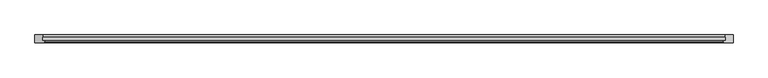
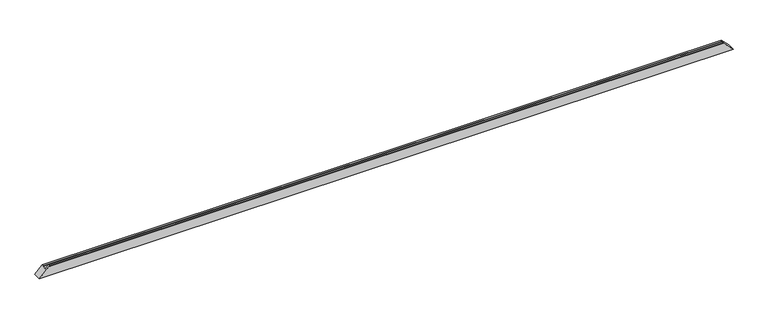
"""IFC4 building model written with IfcOpenShell, lengths in millimetres: proxy geometry, Weiku - Montante - Caixilho 02.2.01.005 : Weiku - Montante - Caixilho 02.2.01.005."""

from ifc_helpers import new_model, si_unit, frame, origin, place, context, project, spatial, ellipse_curve, source, transform, mapped, element, save
from ifc_brep_helpers import plane_surface, cylinder_surface, advanced_brep


def generic_models_e169103e(model_context):
    return source(origin(), model_context, "Body", "AdvancedBrep", [
        advanced_brep(
        [(-2199.0, 12.5, 46.0), (-2178.8909676, 12.5, 66.1090324), (2178.8909676, 12.5, 66.1090324), (2199.0, 12.5, 46.0), (-2199.0, 37.8314286, 46.0), (2199.0, 37.8314286, 46.0), (-2196.0, 37.027581, 49.0), (2196.0, 37.027581, 49.0), (-2196.0, 50.0, 49.0), (2196.0, 50.0, 49.0), (2245.0, 50.0, 0.0), (-2245.0, 50.0, 0.0), (2245.0, 0.0, 0.0), (-2245.0, 0.0, 0.0), (2183.4997332, 0.0, 61.5002668), (-2183.4997332, 0.0, 61.5002668), (-2178.118227, 11.4929448, 66.881773), (-2180.6019557, 2.2235429, 64.3980443), (2180.6019557, 2.2235429, 64.3980443), (2178.118227, 11.4929448, 66.881773)],
        [
            (0, 1),
            (1, 2),
            (2, 3),
            (3, 0),
            (4, 0),
            (3, 5),
            (5, 4),
            (6, 4),
            (5, 7),
            (7, 6),
            (8, 6),
            (7, 9),
            (9, 8),
            (10, 11),
            (11, 8),
            (9, 10),
            (10, 12),
            (12, 13),
            (13, 11),
            (12, 14),
            (14, 15),
            (15, 13),
            (16, 17),
            (17, 18),
            (18, 19),
            (19, 16),
            (15, 17, ellipse_curve(frame((-2183.4997332, 3.0, 61.5002668), z_axis=(-0.7071067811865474, 0.0, 0.7071067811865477), x_axis=(-0.7071067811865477, 0.0, -0.7071067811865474)), 4.2426407, 3.0)),
            (16, 1, ellipse_curve(frame((-2178.8909676, 11.7, 66.1090324), z_axis=(-0.7071067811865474, 0.0, 0.7071067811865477), x_axis=(-0.7071067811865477, 0.0, -0.7071067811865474)), 1.1313708, 0.8)),
            (2, 19, ellipse_curve(frame((2178.8909676, 11.7, 66.1090324), z_axis=(0.7071067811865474, 0.0, 0.7071067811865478), x_axis=(-0.7071067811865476, 0.0, 0.7071067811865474)), 1.1313708, 0.8)),
            (18, 14, ellipse_curve(frame((2183.4997332, 3.0, 61.5002668), z_axis=(0.7071067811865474, 0.0, 0.7071067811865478), x_axis=(-0.7071067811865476, 0.0, 0.7071067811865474)), 4.2426407, 3.0)),
        ],
        [
            plane_surface(frame((-2245.0, 12.5, 66.1090324), z_axis=(0.0, 1.0, 0.0), x_axis=(1.0, 0.0, 0.0))),
            plane_surface(frame((-2245.0, 12.5, 46.0), z_axis=(0.0, 0.0, 1.0), x_axis=(1.0, 0.0, 0.0))),
            plane_surface(frame((-2245.0, 37.8314286, 46.0), z_axis=(0.0, -0.9659258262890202, -0.2588190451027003), x_axis=(1.0, 0.0, 0.0))),
            plane_surface(frame((-2245.0, 37.027581, 49.0), z_axis=(0.0, 0.0, 1.0), x_axis=(1.0, 0.0, 0.0))),
            plane_surface(frame((-2245.0, 50.0, 49.0), z_axis=(0.0, 1.0, 0.0), x_axis=(1.0, 0.0, 0.0))),
            plane_surface(frame((-2245.0, 50.0, 0.0), z_axis=(0.0, 0.0, -1.0), x_axis=(1.0, 0.0, 0.0))),
            plane_surface(frame((-2245.0, 0.0, 0.0), z_axis=(0.0, -1.0, 0.0), x_axis=(1.0, 0.0, 0.0))),
            plane_surface(frame((-2245.0, 2.2235429, 64.3980443), z_axis=(0.0, -0.2588190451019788, 0.9659258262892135), x_axis=(1.0, 0.0, 0.0))),
            plane_surface(frame((-2315.0, -15.0, -70.0), z_axis=(-0.7071067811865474, 0.0, 0.7071067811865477), x_axis=(0.0, 1.0, 0.0))),
            plane_surface(frame((2175.0, -15.0, 70.0), z_axis=(0.7071067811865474, 0.0, 0.7071067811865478), x_axis=(0.0, 1.0, 0.0))),
            cylinder_surface(frame((-2245.0, 11.7, 66.1090324), z_axis=(-1.0, 0.0, 0.0), x_axis=(0.0, 1.0, 0.0)), 0.8),
            cylinder_surface(frame((-2245.0, 3.0, 61.5002668), z_axis=(-1.0, 0.0, 0.0), x_axis=(0.0, 1.0, 0.0)), 3.0),
        ],
        [
            (0, [[1, 2, 3, 4]]),
            (1, [[5, -4, 6, 7]]),
            (2, [[8, -7, 9, 10]]),
            (3, [[11, -10, 12, 13]]),
            (4, [[14, 15, -13, 16]]),
            (5, [[-14, 17, 18, 19]]),
            (6, [[-18, 20, 21, 22]]),
            (7, [[23, 24, 25, 26]]),
            (8, [[-1, -5, -8, -11, -15, -19, -22, 27, -23, 28]]),
            (9, [[-3, 29, -25, 30, -20, -17, -16, -12, -9, -6]]),
            (10, [[-28, -26, -29, -2]]),
            (11, [[-27, -21, -30, -24]]),
        ],
    ),
    ])


if __name__ == "__main__":
    model = new_model("IFC4")
    model_context = context("Model", 3, world=origin())
    ifc_project = project(units=[si_unit("LENGTHUNIT", "METRE", prefix="MILLI")], contexts=[model_context])
    site = spatial("IfcSite", under=ifc_project)
    building = spatial("IfcBuilding", under=site)
    placement = place(None, origin())
    generic_models_shape = generic_models_e169103e(model_context)
    element("IfcBuildingElementProxy", 1, Name="Weiku - Montante - Caixilho 02.2.01.005 : Weiku - Montante - Caixilho 02.2.01.005", ObjectType="Weiku - Montante - Caixilho 02.2.01.005 : Weiku - Montante - Caixilho 02.2.01.005", at=placement, inside=building, context=model_context, shape_type="MappedRepresentation", body=[
        mapped(generic_models_shape, transform((0.0, 0.0, 0.0), x_axis=(1.0, 0.0, 0.0), y_axis=(0.0, 1.0, 0.0), z_axis=(0.0, 0.0, 1.0))),
    ])
    save(model, "model.ifc")
